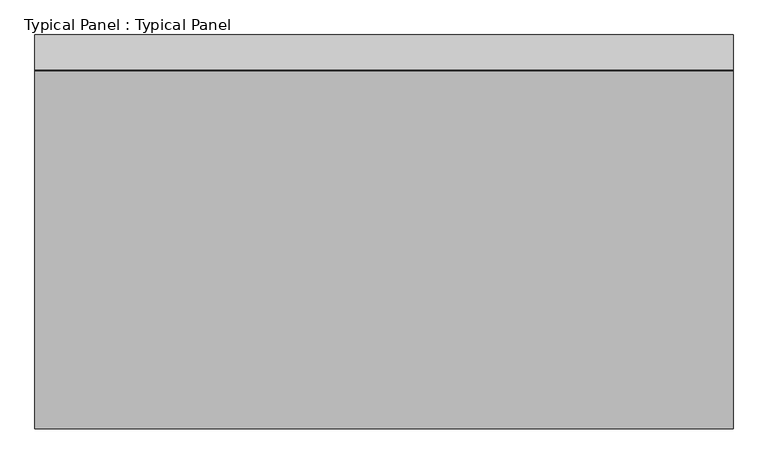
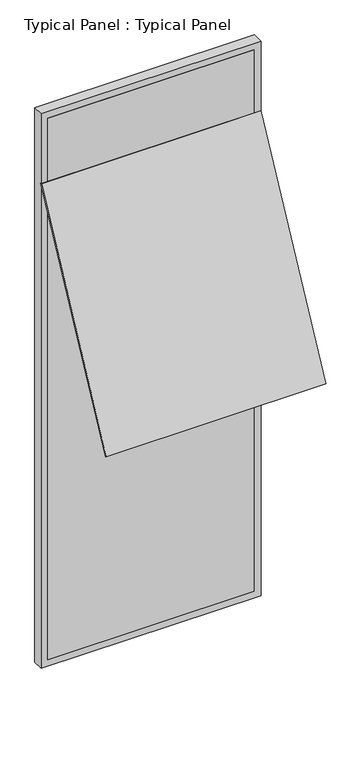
"""IFC4 building model written with IfcOpenShell, lengths in millimetres: plate geometry, Typical Panel : Typical Panel."""

import ifcopenshell
import ifcopenshell.guid

model = None  # the IFC model being written
_history = None  # IfcOwnerHistory: only IFC2X3 demands one
_inside = {}  # id of a spatial element -> (the spatial element, [elements in it])
_under = {}  # id of a project, library or spatial element -> (it, [spatial elements below it])
_declared = {}  # id of a project -> (the project, [libraries it declares])
_typed = {}  # id of a type object -> (the type object, [elements of that type])
_made_of = {}  # id of a material, layer set ... -> (it, [elements and type objects made of it])


def new_model(schema):
    """Start an empty IFC model of exactly this schema.

    Asked for "IFC4X3", IfcOpenShell would pick the latest addendum, in which some entities
    have other attributes; the version numbers below select the first issue.
    IFC2X3 requires an IfcOwnerHistory on every rooted entity: one is made here for all.
    """
    global model, _history
    if schema == "IFC4X3":
        model = ifcopenshell.file(schema_version=(4, 3, 0, 0))
    else:
        model = ifcopenshell.file(schema=schema)
    _inside.clear()
    _under.clear()
    _declared.clear()
    _typed.clear()
    _made_of.clear()
    _history = None
    if model.schema == "IFC2X3":
        org = make("IfcOrganization", Name="unknown")
        user = make(
            "IfcPersonAndOrganization",
            ThePerson=make("IfcPerson", FamilyName="unknown"),
            TheOrganization=org,
        )
        app = make(
            "IfcApplication",
            ApplicationDeveloper=org,
            Version="unknown",
            ApplicationFullName="unknown",
            ApplicationIdentifier="unknown",
        )
        _history = make(
            "IfcOwnerHistory",
            OwningUser=user,
            OwningApplication=app,
            ChangeAction="ADDED",
            CreationDate=0,
        )
    return model


def make(cls, **values):
    """One entity of the class cls with the attributes given. An attribute that is None is left unset."""
    return model.create_entity(
        cls, **{name: value for name, value in values.items() if value is not None}
    )


def rooted(cls, **values):
    """An entity with a GlobalId (a new one), such as an element, a storey or a relation."""
    return make(cls, GlobalId=ifcopenshell.guid.new(), OwnerHistory=_history, **values)


def si_unit(unit_type, name, prefix=None):
    """IfcSIUnit, for example si_unit("LENGTHUNIT", "METRE", prefix="MILLI")."""
    return make("IfcSIUnit", UnitType=unit_type, Prefix=prefix, Name=name)


def assignment(units):
    """IfcUnitAssignment: the units of a project."""
    return None if units is None else make("IfcUnitAssignment", Units=units)


def point(xyz):
    """IfcCartesianPoint."""
    return None if xyz is None else make("IfcCartesianPoint", Coordinates=xyz)


def direction(xyz):
    """IfcDirection."""
    return None if xyz is None else make("IfcDirection", DirectionRatios=xyz)


def frame(location, z_axis=None, x_axis=None):
    """IfcAxis2Placement3D, a coordinate frame: its origin and axes. An axis left out is left unset."""
    return make(
        "IfcAxis2Placement3D",
        Location=point(location),
        Axis=direction(z_axis),
        RefDirection=direction(x_axis),
    )


def origin():
    """The frame at (0, 0, 0) with its axes left unset."""
    return frame((0.0, 0.0, 0.0))


def place(relative_to, where):
    """IfcLocalPlacement: puts the frame where relative to a parent placement (None: the world)."""
    return make(
        "IfcLocalPlacement", PlacementRelTo=relative_to, RelativePlacement=where
    )


def context(
    kind, dimensions, precision=None, world=None, true_north=None, identifier=None
):
    """IfcGeometricRepresentationContext, for example the 3D "Model" context."""
    return make(
        "IfcGeometricRepresentationContext",
        ContextIdentifier=identifier,
        ContextType=kind,
        CoordinateSpaceDimension=dimensions,
        Precision=precision,
        WorldCoordinateSystem=world,
        TrueNorth=true_north,
    )


def project(units=None, contexts=None):
    """IfcProject with its units and contexts."""
    return rooted(
        "IfcProject",
        Name="project",
        RepresentationContexts=contexts,
        UnitsInContext=assignment(units),
    )


def spatial(cls, under=None, at=None, **own):
    """A site, building, storey or space (cls), placed at a placement, below another one or the project."""
    s = rooted(cls, ObjectPlacement=at, **own)
    if under is not None:
        _under.setdefault(under.id(), (under, []))[1].append(s)
    return s


def polyline(points):
    """IfcPolyline through the points."""
    return make("IfcPolyline", Points=[point(p) for p in points])


def outline(outer, holes=None, kind="AREA"):
    """IfcArbitraryClosedProfileDef: a profile drawn as a closed curve; with holes, ...WithVoids."""
    if holes is None:
        return make("IfcArbitraryClosedProfileDef", ProfileType=kind, OuterCurve=outer)
    return make(
        "IfcArbitraryProfileDefWithVoids",
        ProfileType=kind,
        OuterCurve=outer,
        InnerCurves=holes,
    )


def extrude(swept, where, along, depth):
    """IfcExtrudedAreaSolid: the profile swept, set in the frame where, extruded along a direction by depth."""
    return make(
        "IfcExtrudedAreaSolid",
        SweptArea=swept,
        Position=where,
        ExtrudedDirection=direction(along),
        Depth=depth,
    )


def shape(context_of_items, identifier, shape_type, items):
    """IfcShapeRepresentation: the items that make up one representation, for example the "Body"."""
    return make(
        "IfcShapeRepresentation",
        ContextOfItems=context_of_items,
        RepresentationIdentifier=identifier,
        RepresentationType=shape_type,
        Items=items,
    )


def source(mapping_origin, context_of_items, identifier, shape_type, items):
    """IfcRepresentationMap: a shape defined once, which mapped items show again and again."""
    return make(
        "IfcRepresentationMap",
        MappingOrigin=mapping_origin,
        MappedRepresentation=shape(context_of_items, identifier, shape_type, items),
    )


def transform(
    local_origin,
    x_axis=None,
    y_axis=None,
    z_axis=None,
    scale=None,
    scale2=None,
    scale3=None,
    uniform=True,
):
    """IfcCartesianTransformationOperator3D, or its non-uniform kind. x_axis, y_axis, z_axis: its Axis1, 2, 3."""
    if uniform:
        return make(
            "IfcCartesianTransformationOperator3D",
            Axis1=direction(x_axis),
            Axis2=direction(y_axis),
            LocalOrigin=point(local_origin),
            Scale=scale,
            Axis3=direction(z_axis),
        )
    return make(
        "IfcCartesianTransformationOperator3DnonUniform",
        Axis1=direction(x_axis),
        Axis2=direction(y_axis),
        LocalOrigin=point(local_origin),
        Scale=scale,
        Axis3=direction(z_axis),
        Scale2=scale2,
        Scale3=scale3,
    )


def mapped(mapping_source, mapping_target):
    """IfcMappedItem: shows the shape of a source again, moved by a transform."""
    return make(
        "IfcMappedItem", MappingSource=mapping_source, MappingTarget=mapping_target
    )


def made_of(thing, what):
    """Note that an element or type object is made of a material, layer set ...; save() writes the relation."""
    if what is not None:
        _made_of.setdefault(what.id(), (what, []))[1].append(thing)
    return thing


def element(
    cls,
    number,
    at=None,
    inside=None,
    cuts=None,
    type_object=None,
    material=None,
    context=None,
    identifier="Body",
    shape_type=None,
    held_by="IfcProductDefinitionShape",
    body=None,
    shapes=None,
    **own,
):
    """One element of the class cls, such as IfcWall. Its Tag is "e" and its number.

    at: its placement. inside: the storey or other place that contains it. cuts: it is an
    opening in that element (IfcRelVoidsElement). A single representation is given by context,
    identifier, shape_type and body (its items); several are given by shapes. held_by: the class
    of the entity that holds the representations. save() writes the other relations.
    """
    e = rooted(cls, Tag="e%d" % number, ObjectPlacement=at, **own)
    if body is not None:
        shapes = [shape(context, identifier, shape_type, body)]
    if shapes is not None:
        e.Representation = make(held_by, Representations=shapes)
    if inside is not None:
        _inside.setdefault(inside.id(), (inside, []))[1].append(e)
    if cuts is not None:
        rooted(
            "IfcRelVoidsElement", RelatingBuildingElement=cuts, RelatedOpeningElement=e
        )
    if type_object is not None:
        _typed.setdefault(type_object.id(), (type_object, []))[1].append(e)
    return made_of(e, material)


def aggregate(whole, parts):
    """IfcRelAggregates: a whole, such as a stair, and the parts it consists of."""
    return rooted("IfcRelAggregates", RelatingObject=whole, RelatedObjects=parts)


def save(model, path):
    """Write the relations noted so far, then the file.

    IfcRelAggregates (storeys below a building ...), IfcRelContainedInSpatialStructure (elements
    in a storey), IfcRelDefinesByType, IfcRelAssociatesMaterial and IfcRelDeclares: one each for
    every whole, place, type object, material and project.
    """
    for whole, parts in _under.values():
        aggregate(whole, parts)
    for where, things in _inside.values():
        rooted(
            "IfcRelContainedInSpatialStructure",
            RelatedElements=things,
            RelatingStructure=where,
        )
    for kind, things in _typed.values():
        rooted("IfcRelDefinesByType", RelatedObjects=things, RelatingType=kind)
    for what, things in _made_of.values():
        rooted("IfcRelAssociatesMaterial", RelatedObjects=things, RelatingMaterial=what)
    for by, libraries in _declared.values():
        rooted("IfcRelDeclares", RelatingContext=by, RelatedDefinitions=libraries)
    model.write(path)


def typical_panel_typical_panel_fa554c48(model_context):
    return source(origin(), model_context, "Body", "SweptSolid", [
        extrude(outline(polyline([(0.0, -10.0000001), (0.0, 0.0), (1500.0, 0.0), (1500.0, -10.0000001), (0.0, -10.0000001)])), frame((750.0, -772.2439446, 1994.1989741), z_axis=(0.0, 0.45399049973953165, 0.8910065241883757), x_axis=(-1.0, 0.0, 0.0)), (0.0, 0.0, 1.0), 1690.0),
        extrude(outline(polyline([(0.0, -750.0), (0.0, 750.0), (4000.0, 750.0), (4000.0, -750.0), (0.0, -750.0)]), holes=[polyline([(45.0, 705.0), (45.0, -705.0), (3955.0, -705.0), (3955.0, 705.0), (45.0, 705.0)])]), frame((0.0, -1.5797986, 0.0), z_axis=(0.0, 1.0, 0.0), x_axis=(0.0, 0.0, 1.0)), (0.0, 0.0, 1.0), 75.0),
        extrude(outline(polyline([(705.0, -1.5797986), (-705.0, -1.5797986), (-705.0, 13.4202014), (705.0, 13.4202014), (705.0, -1.5797986)])), frame((0.0, 0.0, 45.0), z_axis=(0.0, 0.0, 1.0), x_axis=(1.0, 0.0, 0.0)), (0.0, 0.0, 1.0), 3910.0),
    ])


if __name__ == "__main__":
    model = new_model("IFC4")
    model_context = context("Model", 3, world=origin())
    ifc_project = project(units=[si_unit("LENGTHUNIT", "METRE", prefix="MILLI")], contexts=[model_context])
    site = spatial("IfcSite", under=ifc_project)
    building = spatial("IfcBuilding", under=site)
    placement = place(None, origin())
    typical_panel_typical_panel_shape = typical_panel_typical_panel_fa554c48(model_context)
    element("IfcPlate", 1, ObjectType="Typical Panel : Typical Panel", at=placement, inside=building, context=model_context, shape_type="MappedRepresentation", body=[
        mapped(typical_panel_typical_panel_shape, transform((0.0, 0.0, 0.0), x_axis=(1.0, 0.0, 0.0), y_axis=(0.0, 1.0, 0.0), z_axis=(0.0, 0.0, 1.0))),
    ])
    save(model, "model.ifc")
